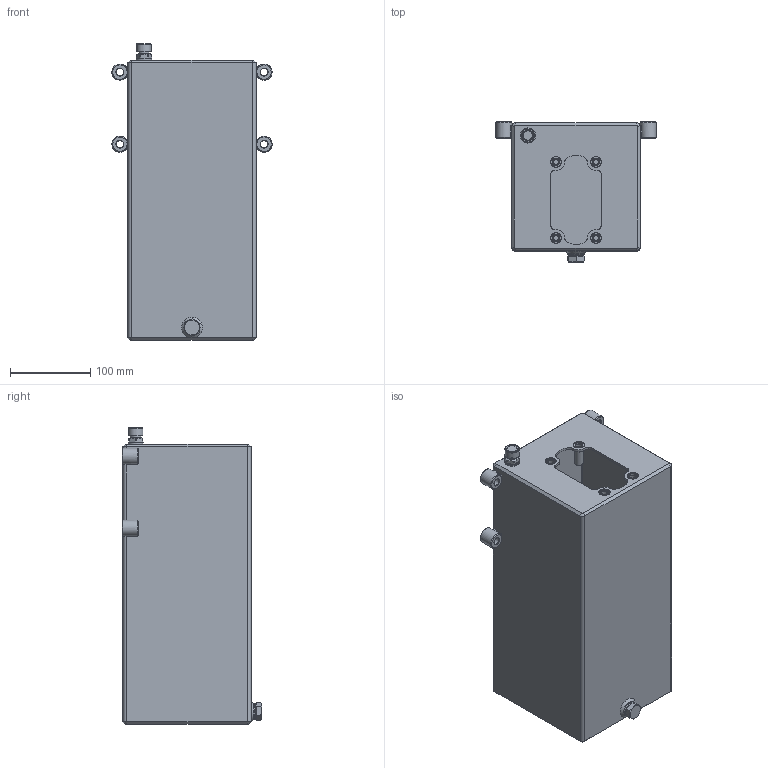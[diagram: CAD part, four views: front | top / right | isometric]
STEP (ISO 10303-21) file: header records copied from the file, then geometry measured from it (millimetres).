
FILE_DESCRIPTION(/* description */ ('Unknown'),/* implementation_level */ '2;1');
FILE_NAME(/* name */ 'SR08FE160',/* time_stamp */ '2024-11-28T10:12:23+01:00',/* author */ ('Unknown'),/* organization */ ('Unknown'),/* preprocessor_version */ 'ST-DEVELOPER v19.4',/* originating_system */ 'Solid Edge',/* authorisation */ 'Unknown');
FILE_SCHEMA (('AUTOMOTIVE_DESIGN {1 0 10303 214 3 1 1}'));
Length unit declared in the file: millimetre
Products named in the file (1): SR08FE160
Bounding box: 200 x 174.5 x 370.6 mm (x, y, z)
Volume: 807562.1 mm3; surface area: 537194.9 mm2
Topology: 2 solids, 2 shells, 255 faces, 591 edges, 366 vertices
Faces by surface type: plane 121, cylinder 67, cone 46, torus 19, bspline 2
Full cylindrical faces by diameter (mm): 5.8 x1, 6.647 x8, 9 x4, 9.15 x4, 10.5 x1, 10.88 x4, 10.9 x4, 13.157 x1, 13.2 x4, 13.5 x1, 15 x1, 16.8 x1, 17 x1, 18 x1, 19 x2, 20 x6, 20.1 x1
Entity records: 8179 total; most frequent: DIRECTION 1173, CARTESIAN_POINT 1138, ORIENTED_EDGE 896, AXIS2_PLACEMENT_3D 485, EDGE_CURVE 448, EDGE_LOOP 394, FACE_BOUND 394, VERTEX_POINT 324
